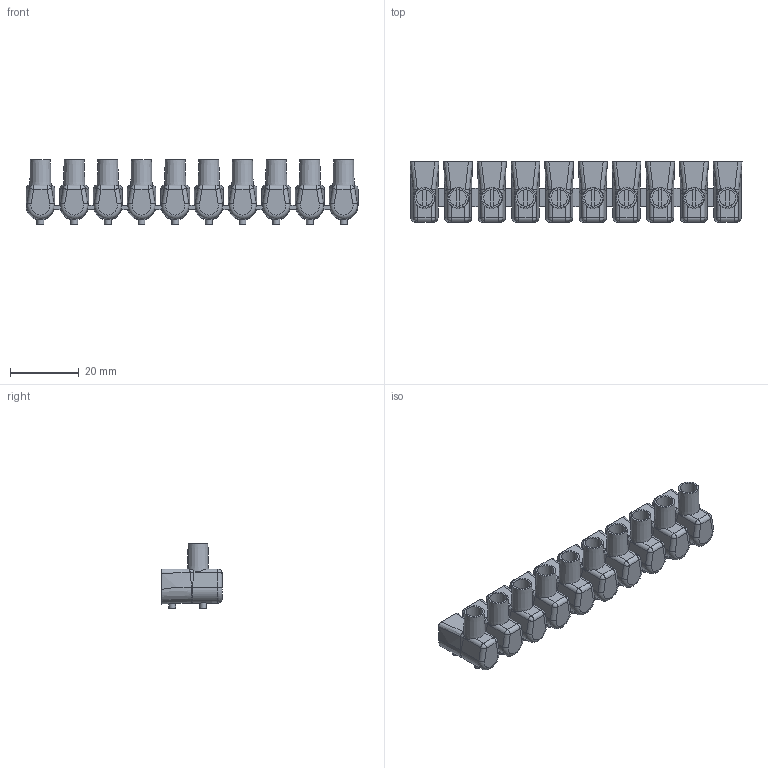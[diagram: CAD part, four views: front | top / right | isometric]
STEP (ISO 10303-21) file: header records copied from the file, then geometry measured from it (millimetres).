
FILE_DESCRIPTION(/* description */ ('Unknown'),/* implementation_level */ '2;1');
FILE_NAME(/* name */ 'MT 502',/* time_stamp */ '2021-10-08T09:44:22+02:00',/* author */ ('Unknown'),/* organization */ ('Unknown'),/* preprocessor_version */ 'ST-DEVELOPER v16.7',/* originating_system */ 'Solid Edge',/* authorisation */ 'Unknown');
FILE_SCHEMA (('AUTOMOTIVE_DESIGN {1 0 10303 214 3 1 1}'));
Length unit declared in the file: millimetre
Products named in the file (1): MT 502
Bounding box: 96.6 x 17.5 x 18.8 mm (x, y, z)
Volume: 8959.4 mm3; surface area: 11905.9 mm2
Topology: 1 solids, 1 shells, 514 faces, 1296 edges, 814 vertices
Faces by surface type: plane 206, bspline 120, cylinder 100, torus 38, cone 30, sphere 20
Full cylindrical faces by diameter (mm): 2 x20, 3.7 x10, 4.8 x10
Entity records: 16724 total; most frequent: CARTESIAN_POINT 6011, ORIENTED_EDGE 2392, DIRECTION 1856, EDGE_CURVE 1196, VERTEX_POINT 784, AXIS2_PLACEMENT_3D 777, EDGE_LOOP 614, FACE_BOUND 614
